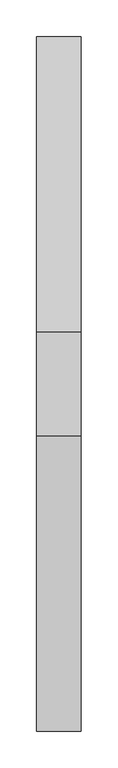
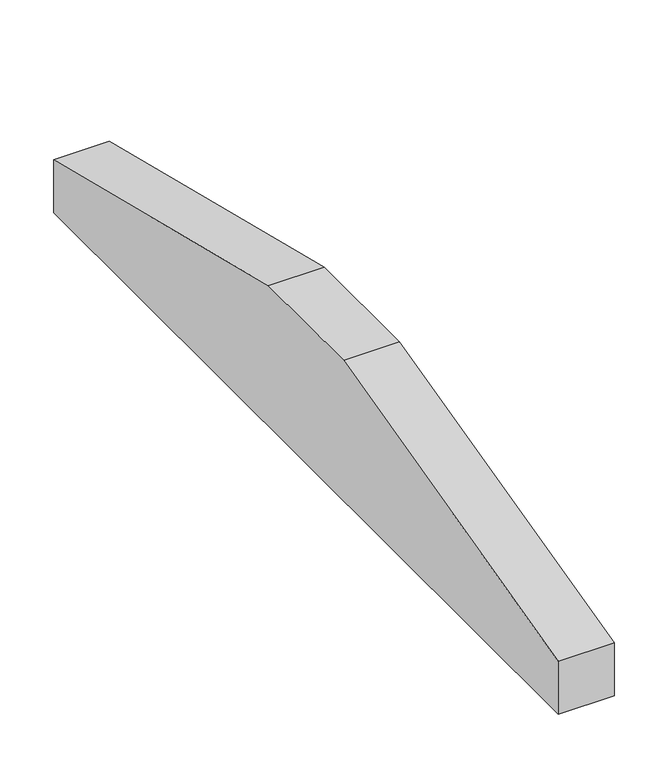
"""IFC4 building model written with IfcOpenShell, lengths in millimetres: proxy geometry, Modelos genéricos 158 : Modelos genéricos 144."""

from ifc_helpers import new_model, si_unit, frame, origin, place, context, project, spatial, polyline, outline, extrude, source, transform, mapped, element, save


def generic_models_51b011b0(model_context):
    return source(origin(), model_context, "Body", "SweptSolid", [
        extrude(outline(polyline([(2018.6238165, 4209.7515316), (2418.6238165, 4110.0203305), (2418.6238165, 4049.7515316), (1478.6238165, 4049.7515316), (1478.6238165, 4110.0203305), (1878.6238165, 4209.7515316), (2018.6238165, 4209.7515316)])), frame((44263.4472467, 0.0, 0.0), z_axis=(1.0, 0.0, 0.0), x_axis=(0.0, 1.0, 0.0)), (0.0, 0.0, 1.0), 60.0),
    ])


if __name__ == "__main__":
    model = new_model("IFC4")
    model_context = context("Model", 3, world=origin())
    ifc_project = project(units=[si_unit("LENGTHUNIT", "METRE", prefix="MILLI")], contexts=[model_context])
    site = spatial("IfcSite", under=ifc_project)
    building = spatial("IfcBuilding", under=site)
    placement = place(None, origin())
    generic_models_shape = generic_models_51b011b0(model_context)
    element("IfcBuildingElementProxy", 1, Name="Modelos genéricos 158 : Modelos genéricos 144", ObjectType="Modelos genéricos 158 : Modelos genéricos 144", at=placement, inside=building, context=model_context, shape_type="MappedRepresentation", body=[
        mapped(generic_models_shape, transform((0.0, 0.0, 0.0), x_axis=(1.0, 0.0, 0.0), y_axis=(0.0, 1.0, 0.0), z_axis=(0.0, 0.0, 1.0))),
    ])
    save(model, "model.ifc")
